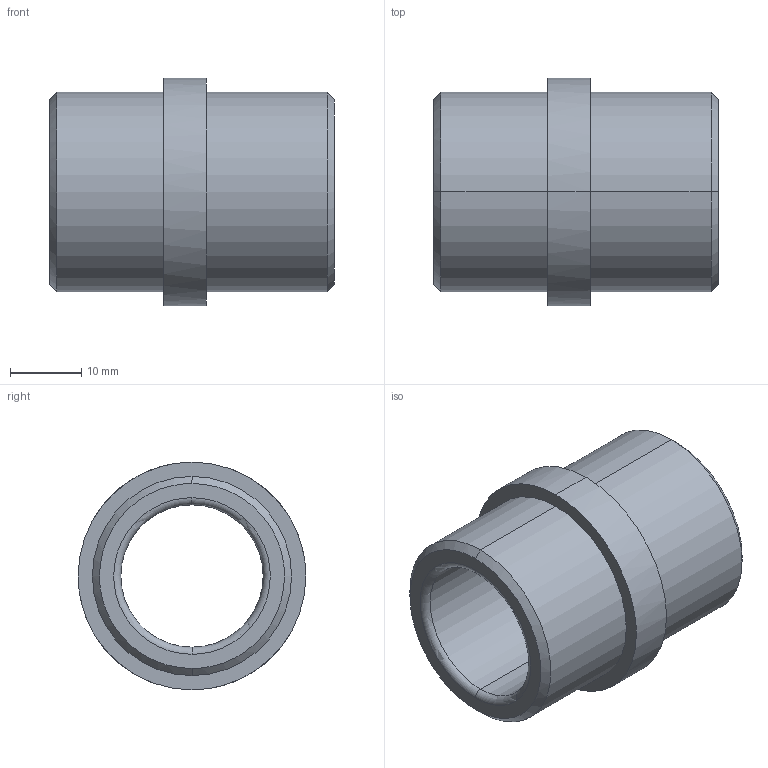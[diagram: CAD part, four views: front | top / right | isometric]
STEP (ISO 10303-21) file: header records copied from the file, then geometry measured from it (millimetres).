
FILE_DESCRIPTION(('CATIA V5 STEP Exchange'),'2;1');
FILE_NAME('C:\Users\Utente\Desktop\IO LAVORO\3D X SITO CF\X SITO\PLASTICA\355\355-20X40.stp','2021-04-21T08:55:39+00:00',('none'),('none'),'CATIA Version 5 Release 20 GA (IN-10)','CATIA V5 STEP AP203','none');
FILE_SCHEMA(('CONFIG_CONTROL_DESIGN'));
Length unit declared in the file: millimetre
Products named in the file (1): 355-20X40
Bounding box: 40 x 32 x 32 mm (x, y, z)
Volume: 13081.2 mm3; surface area: 6928.7 mm2
Topology: 1 solids, 1 shells, 20 faces, 64 edges, 48 vertices
Faces by surface type: cylinder 8, plane 4, cone 4, torus 4
Entity records: 906 total; most frequent: CARTESIAN_POINT 301, ORIENTED_EDGE 128, DIRECTION 92, EDGE_CURVE 64, AXIS2_PLACEMENT_3D 61, VERTEX_POINT 48, CIRCLE 40, EDGE_LOOP 24
